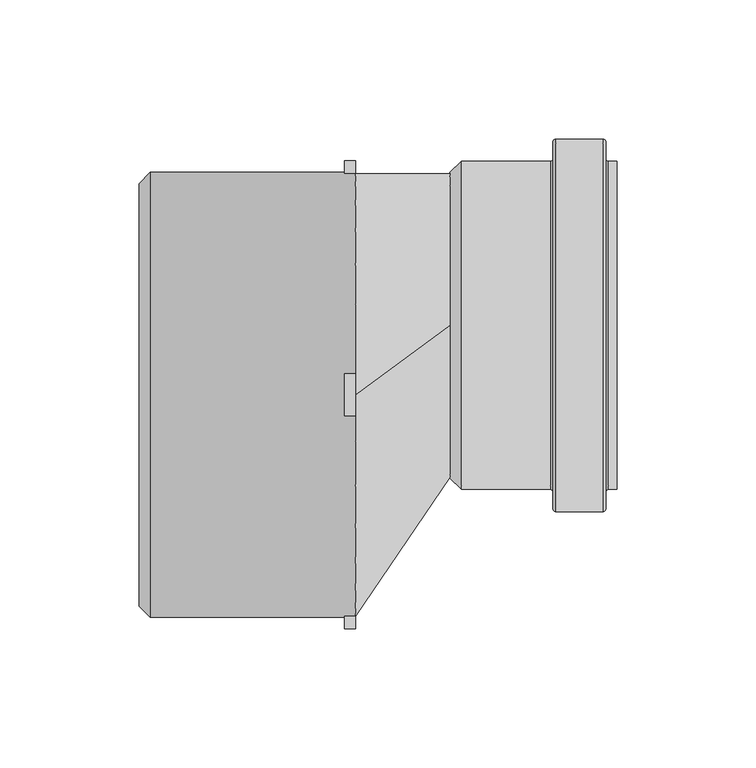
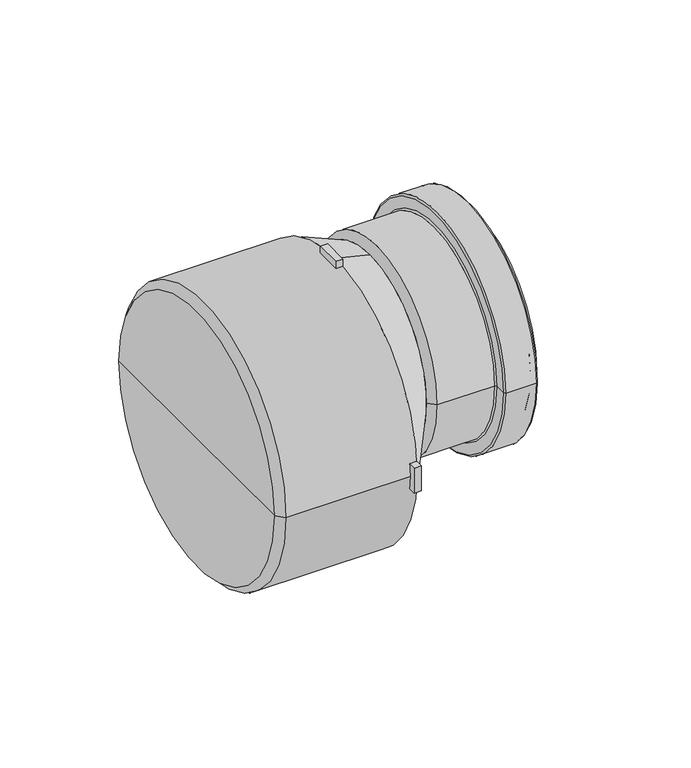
"""IFC4 building model written with IfcOpenShell, lengths in millimetres: pipe fitting geometry, MarleyPlumbingAndDrainage_PipeFitting_dBlueReducer_VRD-160-110-00D : VRD-160-110-00D - 160mmx110mm - Blue."""

from ifc_helpers import new_model, si_unit, point, frame, frame_2d, origin, place, context, project, spatial, polyline, circle_curve, ellipse_curve, trimmed, segment, composite_curve, outline, extrude, source, transform, mapped, element, save
from ifc_brep_helpers import plane_surface, cylinder_surface, revolved_surface, spline_surface, advanced_brep


def pipe_fitting_538f6d23(model_context):
    return source(origin(), model_context, "Body", "SolidModel", [
        advanced_brep(
        [(-263.2799651, -101.0, 0.0), (-263.2799651, 51.0, 0.0), (-259.2799651, 55.0, 0.0), (-259.2799651, -105.0, 0.0), (-263.2799651, -25.0, 0.0), (-185.2799651, 55.0, 0.0), (-185.2799651, -25.0, -80.0), (-185.2799651, -55.6146746, -73.9103626), (-185.2799651, -81.5685425, -56.5685425), (-185.2799651, -98.9103626, -30.6146746), (-185.2799651, -105.0, 0.0), (-185.2799651, -98.9103626, 30.6146746), (-185.2799651, -81.5685425, 56.5685425), (-185.2799651, -55.6146746, 73.9103626), (-185.2799651, -25.0, 80.0), (-151.2799651, 0.0, -55.0), (-151.2799651, 0.0, 55.0)],
        [
            (0, 1, circle_curve(frame((-263.2799651, -25.0, 0.0), z_axis=(1.0, 0.0, 0.0), x_axis=(0.0, 1.0, 0.0)), 76.0)),
            (1, 2),
            (2, 3, circle_curve(frame((-259.2799651, -25.0, 0.0), z_axis=(-1.0, 0.0, 0.0), x_axis=(0.0, 1.0, 0.0)), 80.0)),
            (3, 0),
            (1, 0, circle_curve(frame((-263.2799651, -25.0, 0.0), z_axis=(1.0, 0.0, 0.0), x_axis=(0.0, 1.0, 0.0)), 76.0)),
            (3, 2, circle_curve(frame((-259.2799651, -25.0, 0.0), z_axis=(-1.0, 0.0, 0.0), x_axis=(0.0, 1.0, 0.0)), 80.0)),
            (0, 4),
            (4, 1),
            (2, 5),
            (5, 6, circle_curve(frame((-185.2799651, -25.0, 0.0), z_axis=(-1.0, 0.0, 0.0), x_axis=(0.0, 1.0, 0.0)), 80.0)),
            (6, 7, circle_curve(frame((-185.2799651, -25.0, 0.0), z_axis=(-1.0, 0.0, 0.0), x_axis=(0.0, 1.0, 0.0)), 80.0)),
            (7, 8, circle_curve(frame((-185.2799651, -25.0, 0.0), z_axis=(-1.0, 0.0, 0.0), x_axis=(0.0, 1.0, 0.0)), 80.0)),
            (8, 9, circle_curve(frame((-185.2799651, -25.0, 0.0), z_axis=(-1.0, 0.0, 0.0), x_axis=(0.0, 1.0, 0.0)), 80.0)),
            (9, 10, circle_curve(frame((-185.2799651, -25.0, 0.0), z_axis=(-1.0, 0.0, 0.0), x_axis=(0.0, 1.0, 0.0)), 80.0)),
            (10, 3),
            (10, 11, circle_curve(frame((-185.2799651, -25.0, 0.0), z_axis=(-1.0, 0.0, 0.0), x_axis=(0.0, 1.0, 0.0)), 80.0)),
            (11, 12, circle_curve(frame((-185.2799651, -25.0, 0.0), z_axis=(-1.0, 0.0, 0.0), x_axis=(0.0, 1.0, 0.0)), 80.0)),
            (12, 13, circle_curve(frame((-185.2799651, -25.0, 0.0), z_axis=(-1.0, 0.0, 0.0), x_axis=(0.0, 1.0, 0.0)), 80.0)),
            (13, 14, circle_curve(frame((-185.2799651, -25.0, 0.0), z_axis=(-1.0, 0.0, 0.0), x_axis=(0.0, 1.0, 0.0)), 80.0)),
            (14, 5, circle_curve(frame((-185.2799651, -25.0, 0.0), z_axis=(-1.0, 0.0, 0.0), x_axis=(0.0, 1.0, 0.0)), 80.0)),
            (15, 16, circle_curve(frame((-151.2799651, 0.0, 0.0), z_axis=(1.0, 0.0, 0.0), x_axis=(0.0, 0.0, 1.0)), 55.0)),
            (16, 15, circle_curve(frame((-151.2799651, 0.0, 0.0), z_axis=(1.0, 0.0, 0.0), x_axis=(0.0, 0.0, 1.0)), 55.0)),
            (15, 6),
            (14, 16),
        ],
        [
            revolved_surface(polyline([(-259.2799651, 55.0, 0.0), (-263.2799651, 51.0, 0.0)]), (1.0, -25.0, 0.0), (-1.0, 0.0, 0.0)),
            plane_surface(frame((-263.2799651, -25.0, 0.0), z_axis=(-1.0, 0.0, 0.0), x_axis=(0.0, 1.0, 0.0))),
            cylinder_surface(frame((1.0, -25.0, 0.0), z_axis=(-1.0, 0.0, 0.0), x_axis=(0.0, 1.0, 0.0)), 80.0),
            plane_surface(frame((-151.2799651, 0.0, 0.0), z_axis=(1.0, 0.0, 0.0), x_axis=(0.0, 1.0, 0.0))),
            spline_surface(2, 1, [[(-185.2799651, -25.0, -80.0), (-151.2799651, 0.0, -55.0)], [(-185.2799651, 55.0, -80.0), (-151.2799651, 55.0, -55.0)], [(-185.2799651, 55.0, 0.0), (-151.2799651, 55.0, 0.0)], [(-185.2799651, 55.0, 80.0), (-151.2799651, 55.0, 55.0)], [(-185.2799651, -25.0, 80.0), (-151.2799651, 0.0, 55.0)]], [3, 2, 3], [2, 2], [0.0, 1.0, 2.0], [0.0, 1.0], weights=[[1.0, 1.0], [0.7071067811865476, 0.7071067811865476], [1.0, 1.0], [0.7071067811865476, 0.7071067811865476], [1.0, 1.0]]),
            spline_surface(2, 1, [[(-185.2799651, -25.0, 80.0), (-151.2799651, 0.0, 55.0)], [(-185.2799651, -105.0, 80.0), (-151.2799651, -55.0, 55.0)], [(-185.2799651, -105.0, 0.0), (-151.2799651, -55.0, 0.0)], [(-185.2799651, -105.0, -80.0), (-151.2799651, -55.0, -55.0)], [(-185.2799651, -25.0, -80.0), (-151.2799651, 0.0, -55.0)]], [3, 2, 3], [2, 2], [0.0, 1.0, 2.0], [0.0, 1.0], weights=[[1.0, 1.0], [0.7071067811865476, 0.7071067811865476], [1.0, 1.0], [0.7071067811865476, 0.7071067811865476], [1.0, 1.0]]),
        ],
        [
            (0, [[1, 2, 3, 4]]),
            (0, [[-2, 5, -4, 6]]),
            (1, [[-1, 7, 8]]),
            (1, [[-5, -8, -7]]),
            (2, [[-3, 9, 10, 11, 12, 13, 14, 15]]),
            (2, [[-6, -15, 16, 17, 18, 19, 20, -9]]),
            (3, [[21, 22]]),
            (4, [[-21, 23, -10, -20, 24]]),
            (5, [[-22, -24, -19, -18, -17, -16, -14, -13, -12, -11, -23]]),
        ],
    ),
        extrude(outline(composite_curve([segment(trimmed(circle_curve(frame_2d((-25.0, 0.0)), 84.5), [point((-109.1665017, -7.5))], [point((-109.1665017, 7.5))], False, "CARTESIAN"), True, "CONTINUOUS"), segment(polyline([(-109.1665017, 7.5), (-104.6476616, 7.5)]), True, "CONTINUOUS"), segment(trimmed(circle_curve(frame_2d((-25.0, 0.0)), 80.0), [point((-104.6476616, 7.5))], [point((-104.6476616, -7.5))], True, "CARTESIAN"), True, "CONTINUOUS"), segment(polyline([(-104.6476616, -7.5), (-109.1665017, -7.5)]), True, "CONTINUOUS")], self_intersect=False)), frame((-189.2799651, 0.0, 0.0), z_axis=(1.0, 0.0, 0.0), x_axis=(0.0, 1.0, 0.0)), (0.0, 0.0, 1.0), 4.0),
        extrude(outline(composite_curve([segment(polyline([(54.6476616, 7.5), (59.1665017, 7.5)]), True, "CONTINUOUS"), segment(trimmed(circle_curve(frame_2d((-25.0, 0.0)), 84.5), [point((59.1665017, 7.5))], [point((59.1665017, -7.5))], False, "CARTESIAN"), True, "CONTINUOUS"), segment(polyline([(59.1665017, -7.5), (54.6476616, -7.5)]), True, "CONTINUOUS"), segment(trimmed(circle_curve(frame_2d((-25.0, 0.0)), 80.0), [point((54.6476616, -7.5))], [point((54.6476616, 7.5))], True, "CARTESIAN"), True, "CONTINUOUS")], self_intersect=False)), frame((-189.2799651, 0.0, 0.0), z_axis=(1.0, 0.0, 0.0), x_axis=(0.0, 1.0, 0.0)), (0.0, 0.0, 1.0), 4.0),
        extrude(outline(composite_curve([segment(polyline([(-17.5, -79.6476616), (-17.5, -84.1665017)]), True, "CONTINUOUS"), segment(trimmed(circle_curve(frame_2d((-25.0, 0.0)), 84.5), [point((-17.5, -84.1665017))], [point((-32.5, -84.1665017))], False, "CARTESIAN"), True, "CONTINUOUS"), segment(polyline([(-32.5, -84.1665017), (-32.5, -79.6476616)]), True, "CONTINUOUS"), segment(trimmed(circle_curve(frame_2d((-25.0, 0.0)), 80.0), [point((-32.5, -79.6476616))], [point((-17.5, -79.6476616))], True, "CARTESIAN"), True, "CONTINUOUS")], self_intersect=False)), frame((-189.2799651, 0.0, 0.0), z_axis=(1.0, 0.0, 0.0), x_axis=(0.0, 1.0, 0.0)), (0.0, 0.0, 1.0), 4.0),
        extrude(outline(composite_curve([segment(polyline([(-32.5, 79.6476616), (-32.5, 84.1665017)]), True, "CONTINUOUS"), segment(trimmed(circle_curve(frame_2d((-25.0, 0.0)), 84.5), [point((-32.5, 84.1665017))], [point((-17.5, 84.1665017))], False, "CARTESIAN"), True, "CONTINUOUS"), segment(polyline([(-17.5, 84.1665017), (-17.5, 79.6476616)]), True, "CONTINUOUS"), segment(trimmed(circle_curve(frame_2d((-25.0, 0.0)), 80.0), [point((-17.5, 79.6476616))], [point((-32.5, 79.6476616))], True, "CARTESIAN"), True, "CONTINUOUS")], self_intersect=False)), frame((-189.2799651, 0.0, 0.0), z_axis=(1.0, 0.0, 0.0), x_axis=(0.0, 1.0, 0.0)), (0.0, 0.0, 1.0), 4.0),
        advanced_brep(
        [(-91.2799651, 55.0, 0.0), (-91.2799651, -55.0, 0.0), (-91.2799651, -59.0, 0.0), (-91.2799651, 59.0, 0.0), (-149.2799651, 55.0, 0.0), (-149.2799651, -55.0, 0.0), (-115.2799651, 59.0, 0.0), (-115.2799651, -59.0, 0.0), (-147.2799651, -59.0, 0.0), (-147.2799651, 59.0, 0.0), (-114.2799651, 66.0, 0.0), (-114.2799651, -66.0, 0.0), (-114.2799651, -60.0, 0.0), (-114.2799651, 60.0, 0.0), (-96.2799651, 67.0, 0.0), (-96.2799651, -67.0, 0.0), (-113.2799651, -67.0, 0.0), (-113.2799651, 67.0, 0.0), (-95.2799651, 60.0, 0.0), (-95.2799651, -60.0, 0.0), (-95.2799651, -66.0, 0.0), (-95.2799651, 66.0, 0.0), (-94.2799651, -59.0, 0.0), (-94.2799651, 59.0, 0.0), (-149.2799651, 0.0, 0.0), (-151.2799651, 55.0, 0.0), (-151.2799651, -55.0, 0.0), (-151.2799651, 0.0, 0.0)],
        [
            (0, 1, circle_curve(frame((-91.2799651, 0.0, 0.0), z_axis=(-1.0, 0.0, 0.0), x_axis=(0.0, -1.0, 0.0)), 55.0)),
            (1, 2),
            (2, 3, circle_curve(frame((-91.2799651, 0.0, 0.0), z_axis=(1.0, 0.0, 0.0), x_axis=(0.0, -1.0, 0.0)), 59.0)),
            (3, 0),
            (1, 0, circle_curve(frame((-91.2799651, 0.0, 0.0), z_axis=(-1.0, 0.0, 0.0), x_axis=(0.0, -1.0, 0.0)), 55.0)),
            (3, 2, circle_curve(frame((-91.2799651, 0.0, 0.0), z_axis=(1.0, 0.0, 0.0), x_axis=(0.0, -1.0, 0.0)), 59.0)),
            (4, 5, circle_curve(frame((-149.2799651, 0.0, 0.0), z_axis=(-1.0, 0.0, 0.0), x_axis=(0.0, -1.0, 0.0)), 55.0)),
            (5, 1),
            (0, 4),
            (5, 4, circle_curve(frame((-149.2799651, 0.0, 0.0), z_axis=(-1.0, 0.0, 0.0), x_axis=(0.0, -1.0, 0.0)), 55.0)),
            (6, 7, circle_curve(frame((-115.2799651, 0.0, 0.0), z_axis=(-1.0, 0.0, 0.0), x_axis=(0.0, -1.0, 0.0)), 59.0)),
            (7, 8),
            (8, 9, circle_curve(frame((-147.2799651, 0.0, 0.0), z_axis=(1.0, 0.0, 0.0), x_axis=(0.0, -1.0, 0.0)), 59.0)),
            (9, 6),
            (7, 6, circle_curve(frame((-115.2799651, 0.0, 0.0), z_axis=(-1.0, 0.0, 0.0), x_axis=(0.0, -1.0, 0.0)), 59.0)),
            (9, 8, circle_curve(frame((-147.2799651, 0.0, 0.0), z_axis=(1.0, 0.0, 0.0), x_axis=(0.0, -1.0, 0.0)), 59.0)),
            (10, 11, circle_curve(frame((-114.2799651, 0.0, 0.0), z_axis=(-1.0, 0.0, 0.0), x_axis=(0.0, -1.0, 0.0)), 66.0)),
            (11, 12),
            (12, 13, circle_curve(frame((-114.2799651, 0.0, 0.0), z_axis=(1.0, 0.0, 0.0), x_axis=(0.0, -1.0, 0.0)), 60.0)),
            (13, 10),
            (11, 10, circle_curve(frame((-114.2799651, 0.0, 0.0), z_axis=(-1.0, 0.0, 0.0), x_axis=(0.0, -1.0, 0.0)), 66.0)),
            (13, 12, circle_curve(frame((-114.2799651, 0.0, 0.0), z_axis=(1.0, 0.0, 0.0), x_axis=(0.0, -1.0, 0.0)), 60.0)),
            (14, 15, circle_curve(frame((-96.2799651, 0.0, 0.0), z_axis=(-1.0, 0.0, 0.0), x_axis=(0.0, -1.0, 0.0)), 67.0)),
            (15, 16),
            (16, 17, circle_curve(frame((-113.2799651, 0.0, 0.0), z_axis=(1.0, 0.0, 0.0), x_axis=(0.0, -1.0, 0.0)), 67.0)),
            (17, 14),
            (15, 14, circle_curve(frame((-96.2799651, 0.0, 0.0), z_axis=(-1.0, 0.0, 0.0), x_axis=(0.0, -1.0, 0.0)), 67.0)),
            (17, 16, circle_curve(frame((-113.2799651, 0.0, 0.0), z_axis=(1.0, 0.0, 0.0), x_axis=(0.0, -1.0, 0.0)), 67.0)),
            (18, 19, circle_curve(frame((-95.2799651, 0.0, 0.0), z_axis=(-1.0, 0.0, 0.0), x_axis=(0.0, -1.0, 0.0)), 60.0)),
            (19, 20),
            (20, 21, circle_curve(frame((-95.2799651, 0.0, 0.0), z_axis=(1.0, 0.0, 0.0), x_axis=(0.0, -1.0, 0.0)), 66.0)),
            (21, 18),
            (19, 18, circle_curve(frame((-95.2799651, 0.0, 0.0), z_axis=(-1.0, 0.0, 0.0), x_axis=(0.0, -1.0, 0.0)), 60.0)),
            (21, 20, circle_curve(frame((-95.2799651, 0.0, 0.0), z_axis=(1.0, 0.0, 0.0), x_axis=(0.0, -1.0, 0.0)), 66.0)),
            (2, 22),
            (22, 23, circle_curve(frame((-94.2799651, 0.0, 0.0), z_axis=(1.0, 0.0, 0.0), x_axis=(0.0, -1.0, 0.0)), 59.0)),
            (23, 3),
            (23, 22, circle_curve(frame((-94.2799651, 0.0, 0.0), z_axis=(1.0, 0.0, 0.0), x_axis=(0.0, -1.0, 0.0)), 59.0)),
            (12, 7, circle_curve(frame((-115.2799651, -60.0, 0.0), z_axis=(0.0, 0.0, 1.0), x_axis=(1.0, 0.0, 0.0)), 1.0)),
            (6, 13, circle_curve(frame((-115.2799651, 60.0, 0.0), z_axis=(0.0, 0.0, 1.0), x_axis=(1.0, 0.0, 0.0)), 1.0)),
            (16, 11, circle_curve(frame((-113.2799651, -66.0, 0.0), z_axis=(0.0, 0.0, -1.0), x_axis=(1.0, 0.0, 0.0)), 1.0)),
            (10, 17, circle_curve(frame((-113.2799651, 66.0, 0.0), z_axis=(0.0, 0.0, -1.0), x_axis=(1.0, 0.0, 0.0)), 1.0)),
            (20, 15, circle_curve(frame((-96.2799651, -66.0, 0.0), z_axis=(0.0, 0.0, -1.0), x_axis=(1.0, 0.0, 0.0)), 1.0)),
            (14, 21, circle_curve(frame((-96.2799651, 66.0, 0.0), z_axis=(0.0, 0.0, -1.0), x_axis=(1.0, 0.0, 0.0)), 1.0)),
            (22, 19, circle_curve(frame((-94.2799651, -60.0, 0.0), z_axis=(0.0, 0.0, 1.0), x_axis=(1.0, 0.0, 0.0)), 1.0)),
            (18, 23, circle_curve(frame((-94.2799651, 60.0, 0.0), z_axis=(0.0, 0.0, 1.0), x_axis=(1.0, 0.0, 0.0)), 1.0)),
            (24, 5),
            (4, 24),
            (25, 26, circle_curve(frame((-151.2799651, 0.0, 0.0), z_axis=(-1.0, 0.0, 0.0), x_axis=(0.0, -1.0, 0.0)), 55.0)),
            (26, 27),
            (27, 25),
            (26, 25, circle_curve(frame((-151.2799651, 0.0, 0.0), z_axis=(-1.0, 0.0, 0.0), x_axis=(0.0, -1.0, 0.0)), 55.0)),
            (8, 26),
            (25, 9),
        ],
        [
            plane_surface(frame((-91.2799651, 0.0, 0.0), z_axis=(1.0, 0.0, 0.0), x_axis=(0.0, -1.0, 0.0))),
            revolved_surface(polyline([(-91.2799651, -55.0, 0.0), (-149.2799651, -55.0, 0.0)]), (-299.1478542, 0.0, 0.0), (1.0, 0.0, 0.0)),
            cylinder_surface(frame((-299.1478542, 0.0, 0.0), z_axis=(1.0, 0.0, 0.0), x_axis=(0.0, -1.0, 0.0)), 59.0),
            plane_surface(frame((-114.2799651, 0.0, 0.0), z_axis=(-1.0, 0.0, 0.0), x_axis=(0.0, -1.0, 0.0))),
            cylinder_surface(frame((-299.1478542, 0.0, 0.0), z_axis=(1.0, 0.0, 0.0), x_axis=(0.0, -1.0, 0.0)), 67.0),
            plane_surface(frame((-95.2799651, 0.0, 0.0), z_axis=(1.0, 0.0, 0.0), x_axis=(0.0, -1.0, 0.0))),
            revolved_surface(trimmed(ellipse_curve(frame((-115.2799651, -60.0, 0.0), z_axis=(0.0, 0.0, -1.0), x_axis=(1.0, 0.0, 0.0)), 1.0, 1.0), [point((-115.2799651, -59.0, 0.0))], [point((-114.2799651, -60.0, 0.0))], True, "CARTESIAN"), (-299.1478542, 0.0, 0.0), (1.0, 0.0, 0.0)),
            revolved_surface(trimmed(ellipse_curve(frame((-113.2799651, -66.0, 0.0), z_axis=(0.0, 0.0, 1.0), x_axis=(1.0, 0.0, 0.0)), 1.0, 1.0), [point((-114.2799651, -66.0, 0.0))], [point((-113.2799651, -67.0, 0.0))], True, "CARTESIAN"), (-299.1478542, 0.0, 0.0), (1.0, 0.0, 0.0)),
            revolved_surface(trimmed(ellipse_curve(frame((-96.2799651, -66.0, 0.0), z_axis=(0.0, 0.0, 1.0), x_axis=(1.0, 0.0, 0.0)), 1.0, 1.0), [point((-96.2799651, -67.0, 0.0))], [point((-95.2799651, -66.0, 0.0))], True, "CARTESIAN"), (-299.1478542, 0.0, 0.0), (1.0, 0.0, 0.0)),
            revolved_surface(trimmed(ellipse_curve(frame((-94.2799651, -60.0, 0.0), z_axis=(0.0, 0.0, -1.0), x_axis=(1.0, 0.0, 0.0)), 1.0, 1.0), [point((-95.2799651, -60.0, 0.0))], [point((-94.2799651, -59.0, 0.0))], True, "CARTESIAN"), (-299.1478542, 0.0, 0.0), (1.0, 0.0, 0.0)),
            plane_surface(frame((-149.2799651, 0.0, 0.0), z_axis=(1.0, 0.0, 0.0), x_axis=(0.0, -1.0, 0.0))),
            plane_surface(frame((-151.2799651, 0.0, 0.0), z_axis=(-1.0, 0.0, 0.0), x_axis=(0.0, -1.0, 0.0))),
            revolved_surface(polyline([(-151.2799651, -55.0, 0.0), (-147.2799651, -59.0, 0.0)]), (-299.1478542, 0.0, 0.0), (1.0, 0.0, 0.0)),
        ],
        [
            (0, [[1, 2, 3, 4]]),
            (0, [[5, -4, 6, -2]]),
            (1, [[7, 8, -1, 9]]),
            (1, [[10, -9, -5, -8]]),
            (2, [[11, 12, 13, 14]]),
            (2, [[15, -14, 16, -12]]),
            (3, [[17, 18, 19, 20]]),
            (3, [[21, -20, 22, -18]]),
            (4, [[23, 24, 25, 26]]),
            (4, [[27, -26, 28, -24]]),
            (5, [[29, 30, 31, 32]]),
            (5, [[33, -32, 34, -30]]),
            (2, [[-3, 35, 36, 37]]),
            (2, [[-6, -37, 38, -35]]),
            (6, [[-19, 39, -11, 40]]),
            (6, [[-22, -40, -15, -39]]),
            (7, [[-25, 41, -17, 42]]),
            (7, [[-28, -42, -21, -41]]),
            (8, [[-31, 43, -23, 44]]),
            (8, [[-34, -44, -27, -43]]),
            (9, [[-36, 45, -29, 46]]),
            (9, [[-38, -46, -33, -45]]),
            (10, [[47, -7, 48]]),
            (10, [[-48, -10, -47]]),
            (11, [[49, 50, 51]]),
            (11, [[52, -51, -50]]),
            (12, [[-13, 53, -49, 54]]),
            (12, [[-16, -54, -52, -53]]),
        ],
    ),
    ])


if __name__ == "__main__":
    model = new_model("IFC4")
    model_context = context("Model", 3, world=origin())
    ifc_project = project(units=[si_unit("LENGTHUNIT", "METRE", prefix="MILLI")], contexts=[model_context])
    site = spatial("IfcSite", under=ifc_project)
    building = spatial("IfcBuilding", under=site)
    placement = place(None, origin())
    pipe_fitting_shape = pipe_fitting_538f6d23(model_context)
    element("IfcPipeFitting", 1, ObjectType="MarleyPlumbingAndDrainage_PipeFitting_dBlueReducer_VRD-160-110-00D : VRD-160-110-00D - 160mmx110mm - Blue", at=placement, inside=building, context=model_context, shape_type="MappedRepresentation", body=[
        mapped(pipe_fitting_shape, transform((0.0, 0.0, 0.0), x_axis=(1.0, 0.0, 0.0), y_axis=(0.0, 1.0, 0.0), z_axis=(0.0, 0.0, 1.0))),
    ])
    save(model, "model.ifc")
